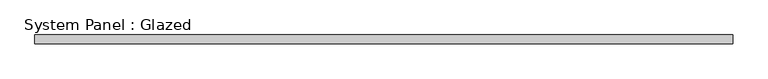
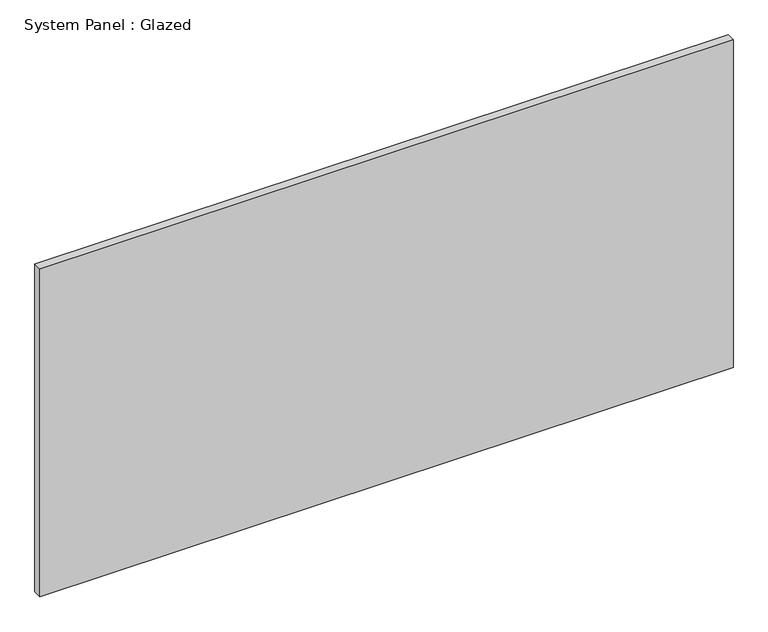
"""IFC4 building model written with IfcOpenShell, lengths in millimetres: plate geometry, System Panel : Glazed."""

from ifc_helpers import new_model, si_unit, origin, origin_with_axes, place, context, project, spatial, polyline, outline, extrude, source, transform, mapped, element, save


def system_panel_glazed_80d48844(model_context):
    return source(origin(), model_context, "Body", "SweptSolid", [
        extrude(outline(polyline([(1000.0, 24.5), (-1000.0, 24.5), (-1000.0, 49.5), (1000.0, 49.5), (1000.0, 24.5)])), origin_with_axes(), (0.0, 0.0, 1.0), 1000.0),
    ])


if __name__ == "__main__":
    model = new_model("IFC4")
    model_context = context("Model", 3, world=origin())
    ifc_project = project(units=[si_unit("LENGTHUNIT", "METRE", prefix="MILLI")], contexts=[model_context])
    site = spatial("IfcSite", under=ifc_project)
    building = spatial("IfcBuilding", under=site)
    placement = place(None, origin())
    system_panel_glazed_shape = system_panel_glazed_80d48844(model_context)
    element("IfcPlate", 1, ObjectType="System Panel : Glazed", at=placement, inside=building, context=model_context, shape_type="MappedRepresentation", body=[
        mapped(system_panel_glazed_shape, transform((0.0, 0.0, 0.0), x_axis=(1.0, 0.0, 0.0), y_axis=(0.0, 1.0, 0.0), z_axis=(0.0, 0.0, 1.0))),
    ])
    save(model, "model.ifc")
